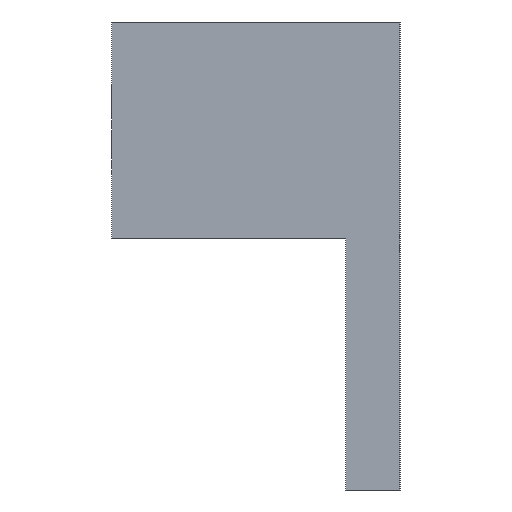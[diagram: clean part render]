
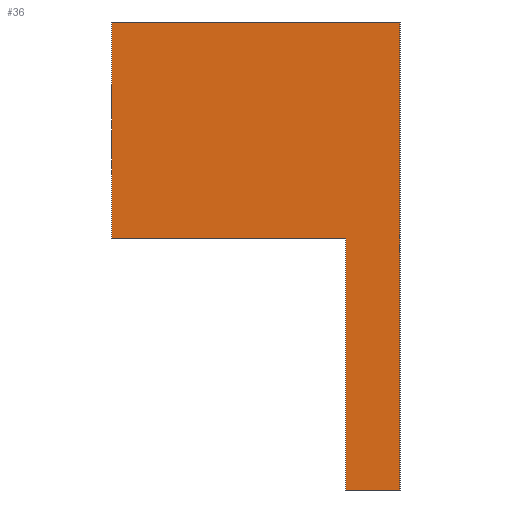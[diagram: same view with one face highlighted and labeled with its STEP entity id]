
A CAD part, left-side view. The second image highlights one B-rep face of the part: STEP entity #36.
In plain terms, the highlighted planar face has unit normal (-1, 0, 0).
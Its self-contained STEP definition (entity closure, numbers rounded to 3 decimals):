
#36 = ADVANCED_FACE( '', ( #77 ), #78, .F. );
#77 = FACE_OUTER_BOUND( '', #124, .T. );
#78 = PLANE( '', #125 );
#124 = EDGE_LOOP( '', ( #165, #166, #167, #168, #169, #170 ) );
#125 = AXIS2_PLACEMENT_3D( '', #171, #172, #173 );
#165 = ORIENTED_EDGE( '', *, *, #257, .F. );
#166 = ORIENTED_EDGE( '', *, *, #258, .F. );
#167 = ORIENTED_EDGE( '', *, *, #259, .F. );
#168 = ORIENTED_EDGE( '', *, *, #260, .F. );
#169 = ORIENTED_EDGE( '', *, *, #261, .F. );
#170 = ORIENTED_EDGE( '', *, *, #262, .F. );
#171 = CARTESIAN_POINT( '', ( -10., 0., 0. ) );
#172 = DIRECTION( '', ( 1., 0., 0. ) );
#173 = DIRECTION( '', ( 0., 0., -1. ) );
#257 = EDGE_CURVE( '', #291, #292, #293, .T. );
#258 = EDGE_CURVE( '', #294, #291, #295, .T. );
#259 = EDGE_CURVE( '', #296, #294, #297, .T. );
#260 = EDGE_CURVE( '', #298, #296, #299, .T. );
#261 = EDGE_CURVE( '', #300, #298, #301, .T. );
#262 = EDGE_CURVE( '', #292, #300, #302, .T. );
#291 = VERTEX_POINT( '', #341 );
#292 = VERTEX_POINT( '', #342 );
#293 = LINE( '', #343, #344 );
#294 = VERTEX_POINT( '', #345 );
#295 = LINE( '', #346, #347 );
#296 = VERTEX_POINT( '', #348 );
#297 = LINE( '', #349, #350 );
#298 = VERTEX_POINT( '', #351 );
#299 = LINE( '', #352, #353 );
#300 = VERTEX_POINT( '', #354 );
#301 = LINE( '', #355, #356 );
#302 = LINE( '', #357, #358 );
#341 = CARTESIAN_POINT( '', ( -10., 0., 6. ) );
#342 = CARTESIAN_POINT( '', ( -10., -16., 6. ) );
#343 = CARTESIAN_POINT( '', ( -10., 0., 6. ) );
#344 = VECTOR( '', #408, 1000. );
#345 = CARTESIAN_POINT( '', ( -10., 0., -6. ) );
#346 = CARTESIAN_POINT( '', ( -10., 0., -6. ) );
#347 = VECTOR( '', #409, 1000. );
#348 = CARTESIAN_POINT( '', ( -10., -13., -6. ) );
#349 = CARTESIAN_POINT( '', ( -10., -13., -6. ) );
#350 = VECTOR( '', #410, 1000. );
#351 = CARTESIAN_POINT( '', ( -10., -13., -20. ) );
#352 = CARTESIAN_POINT( '', ( -10., -13., -20. ) );
#353 = VECTOR( '', #411, 1000. );
#354 = CARTESIAN_POINT( '', ( -10., -16., -20. ) );
#355 = CARTESIAN_POINT( '', ( -10., -16., -20. ) );
#356 = VECTOR( '', #412, 1000. );
#357 = CARTESIAN_POINT( '', ( -10., -16., 6. ) );
#358 = VECTOR( '', #413, 1000. );
#408 = DIRECTION( '', ( 0., -1., 0. ) );
#409 = DIRECTION( '', ( 0., 0., 1. ) );
#410 = DIRECTION( '', ( 0., 1., 0. ) );
#411 = DIRECTION( '', ( 0., 0., 1. ) );
#412 = DIRECTION( '', ( 0., 1., 0. ) );
#413 = DIRECTION( '', ( 0., 0., -1. ) );
